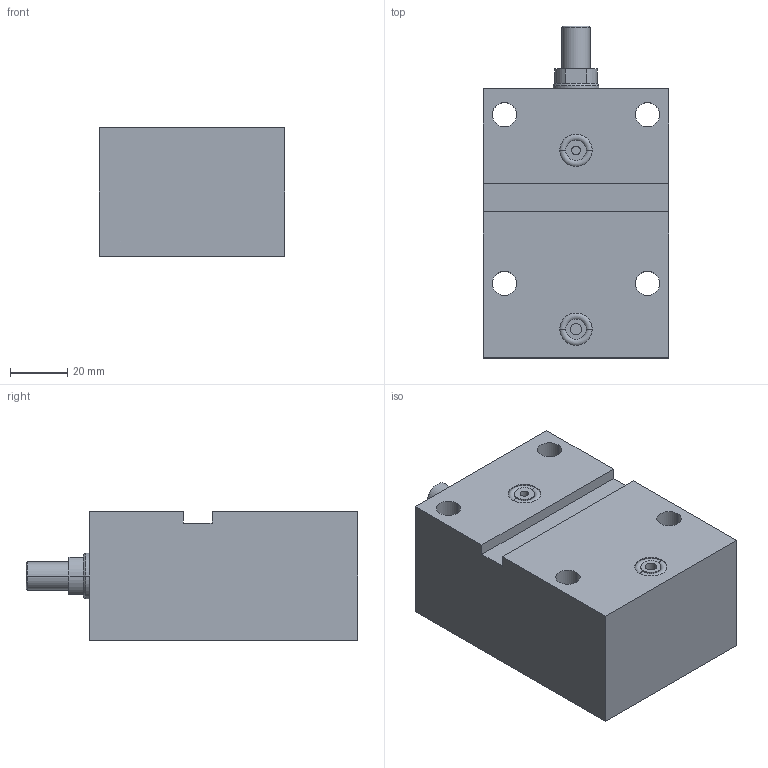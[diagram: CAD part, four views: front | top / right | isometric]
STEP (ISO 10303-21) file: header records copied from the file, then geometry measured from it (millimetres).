
FILE_DESCRIPTION (( 'STEP AP203' ), '1' );
FILE_NAME ('GERMA_Blockzylinder_603-025-050-A.STEP', '2016-01-08T18:11:57', ( '' ), ( '' ), 'SwSTEP 2.0', 'SolidWorks 2015', '' );
FILE_SCHEMA (( 'CONFIG_CONTROL_DESIGN' ));
Length unit declared in the file: millimetre
Products named in the file (3): GH-600-025_GH-603-025-050; Kolben 60x-025_Kolben DU.25-Hub50-AG; GERMA_Blockzylinder_603-025-050-A
Assembly tree (2 placements, depth 2):
  GERMA_Blockzylinder_603-025-050-A
    GH-600-025_GH-603-025-050
    Kolben 60x-025_Kolben DU.25-Hub50-AG
Bounding box: 65 x 116 x 45 mm (x, y, z)
Volume: 249837.2 mm3; surface area: 44514.6 mm2
Topology: 2 solids, 2 shells, 81 faces, 178 edges, 109 vertices
Faces by surface type: cylinder 39, plane 26, cone 12, torus 4
Entity records: 2534 total; most frequent: DIRECTION 439, CARTESIAN_POINT 369, ORIENTED_EDGE 348, AXIS2_PLACEMENT_3D 179, EDGE_CURVE 174, VERTEX_POINT 109, EDGE_LOOP 101, CIRCLE 93
